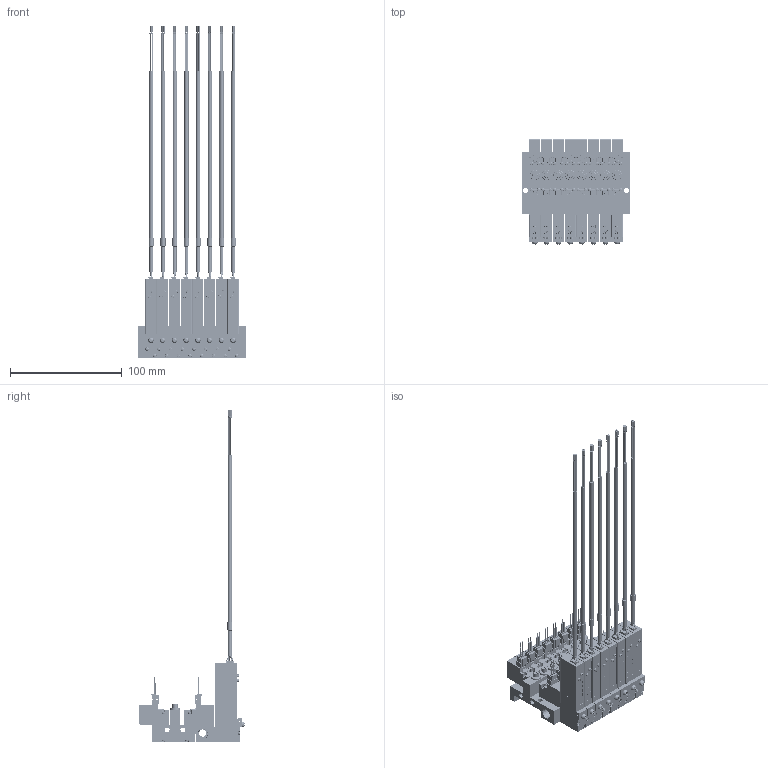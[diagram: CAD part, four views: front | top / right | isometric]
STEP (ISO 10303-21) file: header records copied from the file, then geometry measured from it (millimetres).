
FILE_DESCRIPTION(('STEP AP203'),'1');
FILE_NAME('1-NO(NC)-4EZ-M08-V9.stp','2025-05-08T08:55:56',(' '),(' '),'Spatial InterOp 3D',' ',' ');
FILE_SCHEMA(('CONFIG_CONTROL_DESIGN'));
Length unit declared in the file: millimetre
Products named in the file (266): PV1※1-NO(NC)-4EZ-M08-V9; BODY; PLATE; NEEDLE; BOLT; SOLENOID VALVE VOLTAGE PV; 42; 45; 48; 51; BRAKET(MPS-V9  PV용)NEW; BRAKET; MPS-V9AC.ics; __1; MPS-V9AC; MSBR-29_1; MSBR-28_1; MSBR-27_1; MSBR-26_1; MSBR-25_1; MSBR-24_1; MSBR-21_1; MSBR-7_1; MSBR-4_1; MSBR-1_1
Assembly tree (265 placements, depth 5):
  PV1※1-NO(NC)-4EZ-M08-V9
    BODY
    PLATE
    PLATE
    NEEDLE
    BOLT
    BOLT
    BOLT
    BOLT
    BOLT
    BOLT
    SOLENOID VALVE VOLTAGE PV
      42
      45
      48
      51
    SOLENOID VALVE VOLTAGE PV
      42
      45
      48
      51
    SOLENOID VALVE VOLTAGE PV
      42
      45
      48
      51
    NEEDLE
    SOLENOID VALVE VOLTAGE PV
      42
      45
      48
      51
    SOLENOID VALVE VOLTAGE PV
      42
      45
      48
      51
    NEEDLE
    SOLENOID VALVE VOLTAGE PV
      42
      45
      48
      51
    PLATE
    BOLT
    BOLT
    BOLT
    PLATE
    BOLT
    BOLT
    BOLT
    SOLENOID VALVE VOLTAGE PV
      42
      45
      48
      51
    NEEDLE
    SOLENOID VALVE VOLTAGE PV
      42
      45
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Bounding box: 97.5 x 94.29 x 297.25 mm (x, y, z)
Volume: 214021.6 mm3; surface area: 196814.4 mm2
Topology: 217 solids, 289 shells, 10433 faces, 28614 edges, 19393 vertices
Faces by surface type: plane 7968, cylinder 1847, torus 264, bspline 152, cone 90, extrusion 80, sphere 32
Full cylindrical faces by diameter (mm): 2 x24, 2.3 x16, 2.5 x8, 3 x40, 4.2 x18, 4.5 x2, 5 x16, 6.5 x1, 8.797 x2, 9 x8
Entity records: 347434 total; most frequent: CARTESIAN_POINT 66687, ORIENTED_EDGE 55592, DIRECTION 54322, EDGE_CURVE 28100, VECTOR 21084, LINE 21004, VERTEX_POINT 19224, AXIS2_PLACEMENT_3D 16619
